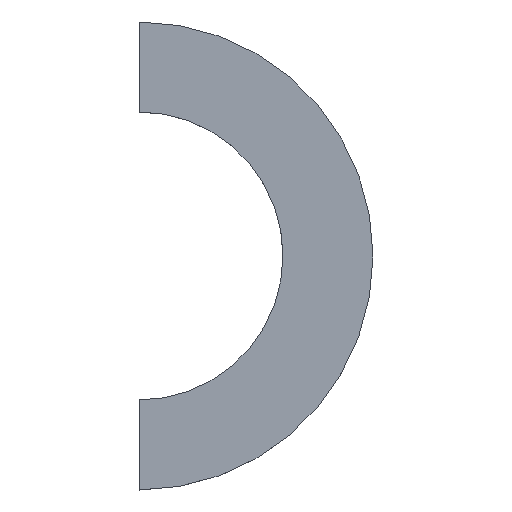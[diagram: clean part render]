
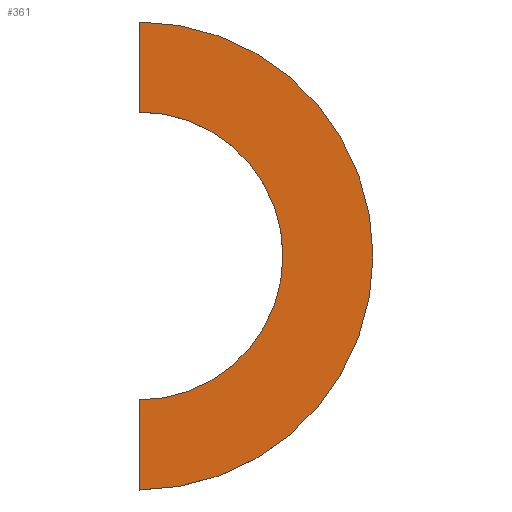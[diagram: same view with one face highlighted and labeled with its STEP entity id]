
A CAD part, top view. The second image highlights one B-rep face of the part: STEP entity #361.
In plain terms, the highlighted planar face has unit normal (0, 0, 1).
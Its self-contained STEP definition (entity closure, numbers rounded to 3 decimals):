
#24 = VERTEX_POINT('',#25);
#25 = CARTESIAN_POINT('',(4.9,0.,6.9));
#32 = CYLINDRICAL_SURFACE('',#33,4.9);
#33 = AXIS2_PLACEMENT_3D('',#34,#35,#36);
#34 = CARTESIAN_POINT('',(0.,0.,6.5));
#35 = DIRECTION('',(0.,0.,1.));
#36 = DIRECTION('',(1.,0.,-0.));
#44 = CYLINDRICAL_SURFACE('',#45,4.9);
#45 = AXIS2_PLACEMENT_3D('',#46,#47,#48);
#46 = CARTESIAN_POINT('',(0.,0.,6.5));
#47 = DIRECTION('',(0.,0.,1.));
#48 = DIRECTION('',(1.,0.,-0.));
#56 = EDGE_CURVE('',#57,#24,#59,.T.);
#57 = VERTEX_POINT('',#58);
#58 = CARTESIAN_POINT('',(0.,-4.9,6.9));
#59 = SURFACE_CURVE('',#60,(#65,#72),.PCURVE_S1.);
#60 = CIRCLE('',#61,4.9);
#61 = AXIS2_PLACEMENT_3D('',#62,#63,#64);
#62 = CARTESIAN_POINT('',(0.,0.,6.9));
#63 = DIRECTION('',(0.,0.,1.));
#64 = DIRECTION('',(1.,0.,-0.));
#65 = PCURVE('',#32,#66);
#66 = DEFINITIONAL_REPRESENTATION('',(#67),#71);
#67 = LINE('',#68,#69);
#68 = CARTESIAN_POINT('',(0.,0.4));
#69 = VECTOR('',#70,1.);
#70 = DIRECTION('',(1.,0.));
#71 = ( GEOMETRIC_REPRESENTATION_CONTEXT(2) 
PARAMETRIC_REPRESENTATION_CONTEXT() REPRESENTATION_CONTEXT('2D SPACE',''
  ) );
#72 = PCURVE('',#73,#78);
#73 = PLANE('',#74);
#74 = AXIS2_PLACEMENT_3D('',#75,#76,#77);
#75 = CARTESIAN_POINT('',(0.,0.,6.9));
#76 = DIRECTION('',(0.,0.,1.));
#77 = DIRECTION('',(1.,0.,-0.));
#78 = DEFINITIONAL_REPRESENTATION('',(#79),#83);
#79 = CIRCLE('',#80,4.9);
#80 = AXIS2_PLACEMENT_2D('',#81,#82);
#81 = CARTESIAN_POINT('',(0.,0.));
#82 = DIRECTION('',(1.,0.));
#83 = ( GEOMETRIC_REPRESENTATION_CONTEXT(2) 
PARAMETRIC_REPRESENTATION_CONTEXT() REPRESENTATION_CONTEXT('2D SPACE',''
  ) );
#100 = PLANE('',#101);
#101 = AXIS2_PLACEMENT_3D('',#102,#103,#104);
#102 = CARTESIAN_POINT('',(0.,-50.,-50.));
#103 = DIRECTION('',(1.,0.,0.));
#104 = DIRECTION('',(0.,0.,1.));
#141 = EDGE_CURVE('',#24,#142,#144,.T.);
#142 = VERTEX_POINT('',#143);
#143 = CARTESIAN_POINT('',(0.,4.9,6.9));
#144 = SURFACE_CURVE('',#145,(#150,#157),.PCURVE_S1.);
#145 = CIRCLE('',#146,4.9);
#146 = AXIS2_PLACEMENT_3D('',#147,#148,#149);
#147 = CARTESIAN_POINT('',(0.,0.,6.9));
#148 = DIRECTION('',(0.,0.,1.));
#149 = DIRECTION('',(1.,0.,-0.));
#150 = PCURVE('',#44,#151);
#151 = DEFINITIONAL_REPRESENTATION('',(#152),#156);
#152 = LINE('',#153,#154);
#153 = CARTESIAN_POINT('',(0.,0.4));
#154 = VECTOR('',#155,1.);
#155 = DIRECTION('',(1.,0.));
#156 = ( GEOMETRIC_REPRESENTATION_CONTEXT(2) 
PARAMETRIC_REPRESENTATION_CONTEXT() REPRESENTATION_CONTEXT('2D SPACE',''
  ) );
#157 = PCURVE('',#73,#158);
#158 = DEFINITIONAL_REPRESENTATION('',(#159),#163);
#159 = CIRCLE('',#160,4.9);
#160 = AXIS2_PLACEMENT_2D('',#161,#162);
#161 = CARTESIAN_POINT('',(0.,0.));
#162 = DIRECTION('',(1.,0.));
#163 = ( GEOMETRIC_REPRESENTATION_CONTEXT(2) 
PARAMETRIC_REPRESENTATION_CONTEXT() REPRESENTATION_CONTEXT('2D SPACE',''
  ) );
#203 = PLANE('',#204);
#204 = AXIS2_PLACEMENT_3D('',#205,#206,#207);
#205 = CARTESIAN_POINT('',(0.,-50.,-50.));
#206 = DIRECTION('',(1.,0.,0.));
#207 = DIRECTION('',(0.,0.,1.));
#257 = CYLINDRICAL_SURFACE('',#258,3.015);
#258 = AXIS2_PLACEMENT_3D('',#259,#260,#261);
#259 = CARTESIAN_POINT('',(0.,0.,6.49));
#260 = DIRECTION('',(0.,0.,1.));
#261 = DIRECTION('',(1.,0.,-0.));
#286 = CYLINDRICAL_SURFACE('',#287,3.015);
#287 = AXIS2_PLACEMENT_3D('',#288,#289,#290);
#288 = CARTESIAN_POINT('',(0.,0.,6.49));
#289 = DIRECTION('',(0.,0.,1.));
#290 = DIRECTION('',(1.,0.,-0.));
#323 = VERTEX_POINT('',#324);
#324 = CARTESIAN_POINT('',(0.,-3.015,6.9));
#343 = EDGE_CURVE('',#57,#323,#344,.T.);
#344 = SURFACE_CURVE('',#345,(#349,#355),.PCURVE_S1.);
#345 = LINE('',#346,#347);
#346 = CARTESIAN_POINT('',(0.,-25.,6.9));
#347 = VECTOR('',#348,1.);
#348 = DIRECTION('',(0.,1.,0.));
#349 = PCURVE('',#100,#350);
#350 = DEFINITIONAL_REPRESENTATION('',(#351),#354);
#351 = B_SPLINE_CURVE_WITH_KNOTS('',1,(#352,#353),.UNSPECIFIED.,.F.,.F.,
  (2,2),(20.1,29.9),.PIECEWISE_BEZIER_KNOTS.);
#352 = CARTESIAN_POINT('',(56.9,-45.1));
#353 = CARTESIAN_POINT('',(56.9,-54.9));
#354 = ( GEOMETRIC_REPRESENTATION_CONTEXT(2) 
PARAMETRIC_REPRESENTATION_CONTEXT() REPRESENTATION_CONTEXT('2D SPACE',''
  ) );
#355 = PCURVE('',#73,#356);
#356 = DEFINITIONAL_REPRESENTATION('',(#357),#360);
#357 = B_SPLINE_CURVE_WITH_KNOTS('',1,(#358,#359),.UNSPECIFIED.,.F.,.F.,
  (2,2),(20.1,29.9),.PIECEWISE_BEZIER_KNOTS.);
#358 = CARTESIAN_POINT('',(0.,-4.9));
#359 = CARTESIAN_POINT('',(0.,4.9));
#360 = ( GEOMETRIC_REPRESENTATION_CONTEXT(2) 
PARAMETRIC_REPRESENTATION_CONTEXT() REPRESENTATION_CONTEXT('2D SPACE',''
  ) );
#361 = ADVANCED_FACE('',(#362),#73,.T.);
#362 = FACE_BOUND('',#363,.T.);
#363 = EDGE_LOOP('',(#364,#365,#366,#387,#411,#433));
#364 = ORIENTED_EDGE('',*,*,#56,.T.);
#365 = ORIENTED_EDGE('',*,*,#141,.T.);
#366 = ORIENTED_EDGE('',*,*,#367,.F.);
#367 = EDGE_CURVE('',#368,#142,#370,.T.);
#368 = VERTEX_POINT('',#369);
#369 = CARTESIAN_POINT('',(0.,3.015,6.9));
#370 = SURFACE_CURVE('',#371,(#375,#381),.PCURVE_S1.);
#371 = LINE('',#372,#373);
#372 = CARTESIAN_POINT('',(0.,-25.,6.9));
#373 = VECTOR('',#374,1.);
#374 = DIRECTION('',(0.,1.,0.));
#375 = PCURVE('',#73,#376);
#376 = DEFINITIONAL_REPRESENTATION('',(#377),#380);
#377 = B_SPLINE_CURVE_WITH_KNOTS('',1,(#378,#379),.UNSPECIFIED.,.F.,.F.,
  (2,2),(20.1,29.9),.PIECEWISE_BEZIER_KNOTS.);
#378 = CARTESIAN_POINT('',(0.,-4.9));
#379 = CARTESIAN_POINT('',(0.,4.9));
#380 = ( GEOMETRIC_REPRESENTATION_CONTEXT(2) 
PARAMETRIC_REPRESENTATION_CONTEXT() REPRESENTATION_CONTEXT('2D SPACE',''
  ) );
#381 = PCURVE('',#203,#382);
#382 = DEFINITIONAL_REPRESENTATION('',(#383),#386);
#383 = B_SPLINE_CURVE_WITH_KNOTS('',1,(#384,#385),.UNSPECIFIED.,.F.,.F.,
  (2,2),(20.1,29.9),.PIECEWISE_BEZIER_KNOTS.);
#384 = CARTESIAN_POINT('',(56.9,-45.1));
#385 = CARTESIAN_POINT('',(56.9,-54.9));
#386 = ( GEOMETRIC_REPRESENTATION_CONTEXT(2) 
PARAMETRIC_REPRESENTATION_CONTEXT() REPRESENTATION_CONTEXT('2D SPACE',''
  ) );
#387 = ORIENTED_EDGE('',*,*,#388,.F.);
#388 = EDGE_CURVE('',#389,#368,#391,.T.);
#389 = VERTEX_POINT('',#390);
#390 = CARTESIAN_POINT('',(3.015,0.,6.9));
#391 = SURFACE_CURVE('',#392,(#397,#404),.PCURVE_S1.);
#392 = CIRCLE('',#393,3.015);
#393 = AXIS2_PLACEMENT_3D('',#394,#395,#396);
#394 = CARTESIAN_POINT('',(0.,0.,6.9));
#395 = DIRECTION('',(0.,0.,1.));
#396 = DIRECTION('',(1.,0.,-0.));
#397 = PCURVE('',#73,#398);
#398 = DEFINITIONAL_REPRESENTATION('',(#399),#403);
#399 = CIRCLE('',#400,3.015);
#400 = AXIS2_PLACEMENT_2D('',#401,#402);
#401 = CARTESIAN_POINT('',(0.,0.));
#402 = DIRECTION('',(1.,0.));
#403 = ( GEOMETRIC_REPRESENTATION_CONTEXT(2) 
PARAMETRIC_REPRESENTATION_CONTEXT() REPRESENTATION_CONTEXT('2D SPACE',''
  ) );
#404 = PCURVE('',#257,#405);
#405 = DEFINITIONAL_REPRESENTATION('',(#406),#410);
#406 = LINE('',#407,#408);
#407 = CARTESIAN_POINT('',(0.,0.41));
#408 = VECTOR('',#409,1.);
#409 = DIRECTION('',(1.,0.));
#410 = ( GEOMETRIC_REPRESENTATION_CONTEXT(2) 
PARAMETRIC_REPRESENTATION_CONTEXT() REPRESENTATION_CONTEXT('2D SPACE',''
  ) );
#411 = ORIENTED_EDGE('',*,*,#412,.F.);
#412 = EDGE_CURVE('',#323,#389,#413,.T.);
#413 = SURFACE_CURVE('',#414,(#419,#426),.PCURVE_S1.);
#414 = CIRCLE('',#415,3.015);
#415 = AXIS2_PLACEMENT_3D('',#416,#417,#418);
#416 = CARTESIAN_POINT('',(0.,0.,6.9));
#417 = DIRECTION('',(0.,0.,1.));
#418 = DIRECTION('',(1.,0.,-0.));
#419 = PCURVE('',#73,#420);
#420 = DEFINITIONAL_REPRESENTATION('',(#421),#425);
#421 = CIRCLE('',#422,3.015);
#422 = AXIS2_PLACEMENT_2D('',#423,#424);
#423 = CARTESIAN_POINT('',(0.,0.));
#424 = DIRECTION('',(1.,0.));
#425 = ( GEOMETRIC_REPRESENTATION_CONTEXT(2) 
PARAMETRIC_REPRESENTATION_CONTEXT() REPRESENTATION_CONTEXT('2D SPACE',''
  ) );
#426 = PCURVE('',#286,#427);
#427 = DEFINITIONAL_REPRESENTATION('',(#428),#432);
#428 = LINE('',#429,#430);
#429 = CARTESIAN_POINT('',(0.,0.41));
#430 = VECTOR('',#431,1.);
#431 = DIRECTION('',(1.,0.));
#432 = ( GEOMETRIC_REPRESENTATION_CONTEXT(2) 
PARAMETRIC_REPRESENTATION_CONTEXT() REPRESENTATION_CONTEXT('2D SPACE',''
  ) );
#433 = ORIENTED_EDGE('',*,*,#343,.F.);
